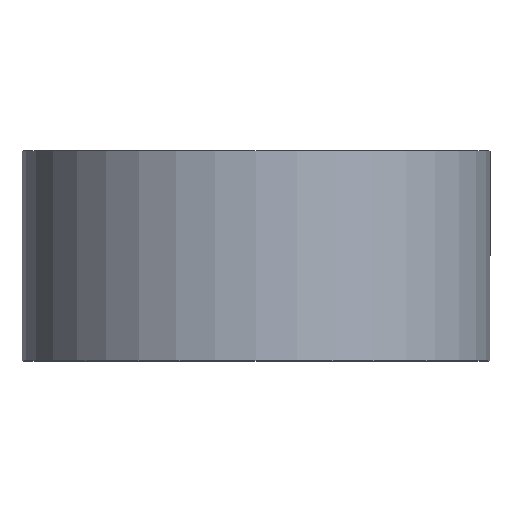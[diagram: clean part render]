
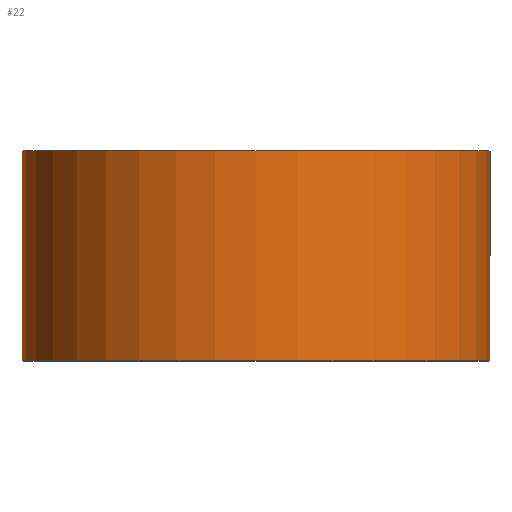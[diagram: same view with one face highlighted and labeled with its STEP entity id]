
A CAD part, top view. The second image highlights one B-rep face of the part: STEP entity #22.
In plain terms, the highlighted cylindrical face has radius 39 mm (diameter 78 mm), a partial arc.
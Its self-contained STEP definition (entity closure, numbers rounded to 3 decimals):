
#2 = CARTESIAN_POINT ( 'NONE',  ( 0., 0., 0. ) ) ;
#3 = CYLINDRICAL_SURFACE ( 'NONE', #216, 39. ) ;
#11 = ORIENTED_EDGE ( 'NONE', *, *, #110, .F. ) ;
#17 = CARTESIAN_POINT ( 'NONE',  ( 0., 0., 0. ) ) ;
#22 = ADVANCED_FACE ( 'NONE', ( #290 ), #3, .T. ) ;
#24 = CARTESIAN_POINT ( 'NONE',  ( 39., 0., 0. ) ) ;
#26 = ORIENTED_EDGE ( 'NONE', *, *, #264, .T. ) ;
#28 = VERTEX_POINT ( 'NONE', #64 ) ;
#31 = CARTESIAN_POINT ( 'NONE',  ( -39., 35., 0. ) ) ;
#40 = LINE ( 'NONE', #227, #46 ) ;
#41 = DIRECTION ( 'NONE',  ( -1., 0., 0. ) ) ;
#46 = VECTOR ( 'NONE', #177, 1000. ) ;
#50 = DIRECTION ( 'NONE',  ( -1., 0., 0. ) ) ;
#63 = LINE ( 'NONE', #203, #152 ) ;
#64 = CARTESIAN_POINT ( 'NONE',  ( -39., 0., 0. ) ) ;
#88 = DIRECTION ( 'NONE',  ( 0., 1., 0. ) ) ;
#90 = ORIENTED_EDGE ( 'NONE', *, *, #223, .T. ) ;
#94 = AXIS2_PLACEMENT_3D ( 'NONE', #2, #162, #50 ) ;
#97 = EDGE_LOOP ( 'NONE', ( #90, #26, #279, #11 ) ) ;
#100 = CARTESIAN_POINT ( 'NONE',  ( 0., 35., 0. ) ) ;
#110 = EDGE_CURVE ( 'NONE', #28, #281, #40, .T. ) ;
#118 = CARTESIAN_POINT ( 'NONE',  ( 39., 35., 0. ) ) ;
#123 = CIRCLE ( 'NONE', #94, 39. ) ;
#129 = CIRCLE ( 'NONE', #164, 39. ) ;
#144 = DIRECTION ( 'NONE',  ( 0., 1., 0. ) ) ;
#152 = VECTOR ( 'NONE', #144, 1000. ) ;
#162 = DIRECTION ( 'NONE',  ( 0., 1., 0. ) ) ;
#164 = AXIS2_PLACEMENT_3D ( 'NONE', #100, #189, #221 ) ;
#177 = DIRECTION ( 'NONE',  ( 0., 1., 0. ) ) ;
#188 = VERTEX_POINT ( 'NONE', #118 ) ;
#189 = DIRECTION ( 'NONE',  ( 0., 1., 0. ) ) ;
#203 = CARTESIAN_POINT ( 'NONE',  ( 39., 0., 0. ) ) ;
#216 = AXIS2_PLACEMENT_3D ( 'NONE', #17, #88, #41 ) ;
#221 = DIRECTION ( 'NONE',  ( -1., 0., 0. ) ) ;
#223 = EDGE_CURVE ( 'NONE', #28, #283, #123, .T. ) ;
#227 = CARTESIAN_POINT ( 'NONE',  ( -39., 0., 0. ) ) ;
#264 = EDGE_CURVE ( 'NONE', #283, #188, #63, .T. ) ;
#279 = ORIENTED_EDGE ( 'NONE', *, *, #294, .F. ) ;
#281 = VERTEX_POINT ( 'NONE', #31 ) ;
#283 = VERTEX_POINT ( 'NONE', #24 ) ;
#290 = FACE_OUTER_BOUND ( 'NONE', #97, .T. ) ;
#294 = EDGE_CURVE ( 'NONE', #281, #188, #129, .T. ) ;
